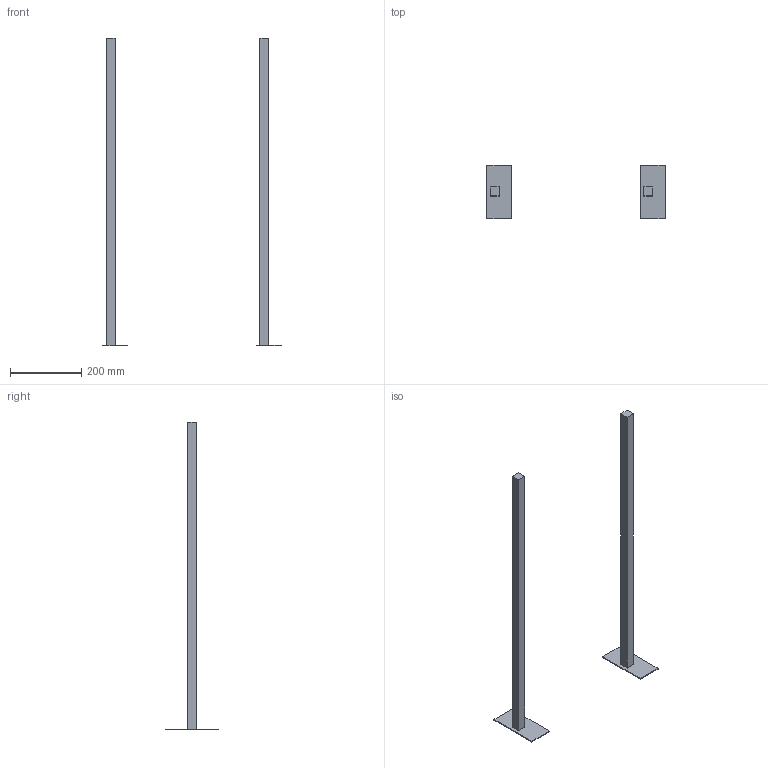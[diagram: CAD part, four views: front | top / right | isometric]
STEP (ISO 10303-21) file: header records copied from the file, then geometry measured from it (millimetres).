
FILE_DESCRIPTION(('STEP AP214'),'1');
FILE_NAME('nderset_457872.STP','2025-09-23T14:46:06',(' '),(' '),'Spatial InterOp 3D',' ',' ');
FILE_SCHEMA(('AUTOMOTIVE_DESIGN { 1 0 10303 214 1 1 1 1 }'));
Length unit declared in the file: millimetre
Products named in the file (1): Quader
Bounding box: 500 x 150 x 862.5 mm (x, y, z)
Volume: 1127500 mm3; surface area: 218700 mm2
Topology: 4 solids, 4 shells, 24 faces, 48 edges, 32 vertices
Faces by surface type: plane 24
Entity records: 673 total; most frequent: CARTESIAN_POINT 108, DIRECTION 104, ORIENTED_EDGE 96, EDGE_CURVE 48, LINE 48, VECTOR 48, VERTEX_POINT 32, AXIS2_PLACEMENT_3D 28
